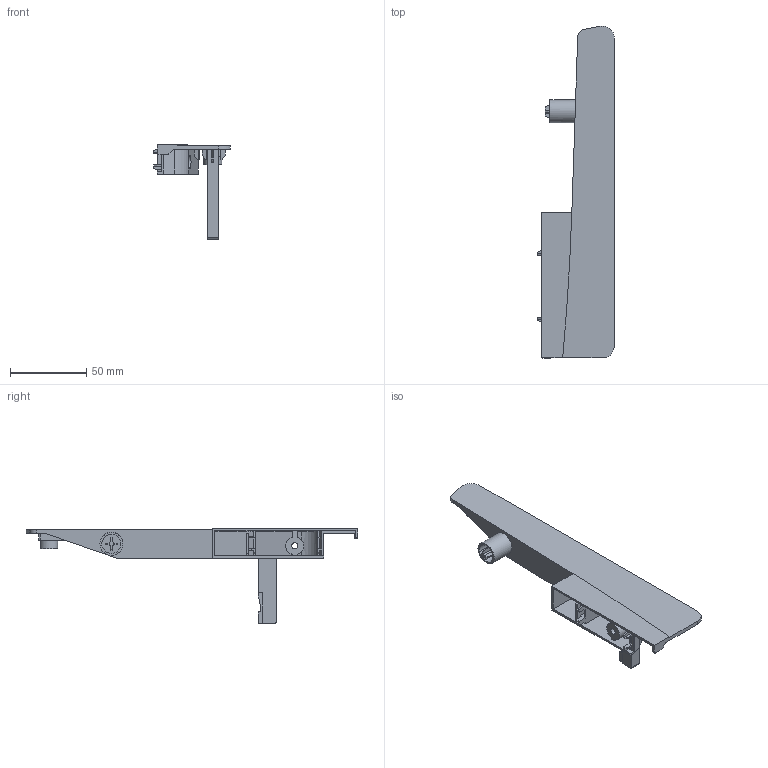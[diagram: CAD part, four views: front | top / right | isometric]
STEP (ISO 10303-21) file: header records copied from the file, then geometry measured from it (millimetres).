
FILE_DESCRIPTION(/* description */ (''),/* implementation_level */ '2;1');
FILE_NAME(/* name */ 'D:\$Workingspace\Designs\Katalog\Cadsoft\GTV Prwadnice II\PB-D(KW)\PB-D(KW)\Akcesoria\Bryły 3D MB akcesoria\PB-D-WEWMOCC-KW-R.stp',/* time_stamp */ '2017-02-09T10:49:33+01:00',/* author */ ('tomaszw'),/* organization */ (''),/* preprocessor_version */ 'ST-DEVELOPER v16.1',/* originating_system */ 'Autodesk Inventor 2016',/* authorisation */ '');
FILE_SCHEMA (('CONFIG_CONTROL_DESIGN'));
Length unit declared in the file: millimetre
Products named in the file (1): PB-D-WEWMOC(A)(B)(C)
Bounding box: 50.5 x 218.15 x 62.1 mm (x, y, z)
Volume: 33417.9 mm3; surface area: 36878.8 mm2
Topology: 1 solids, 1 shells, 270 faces, 754 edges, 500 vertices
Faces by surface type: plane 231, cylinder 39
Full cylindrical faces by diameter (mm): 4 x1, 9 x1, 12.6 x1, 15.1 x1
Entity records: 8551 total; most frequent: CARTESIAN_POINT 1524, ORIENTED_EDGE 1494, DIRECTION 1377, EDGE_CURVE 747, LINE 657, VECTOR 657, VERTEX_POINT 497, AXIS2_PLACEMENT_3D 360
